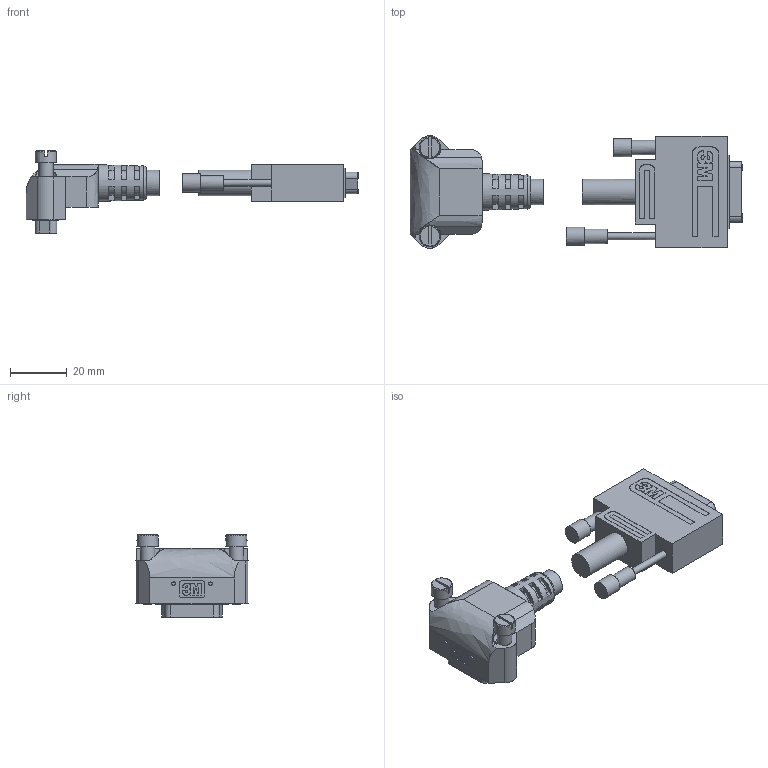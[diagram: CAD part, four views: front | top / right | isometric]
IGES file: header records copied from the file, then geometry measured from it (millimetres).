
Global section: file name: Q:\us254833\2009 Jobs\Pilny_wr10880_SDR_MDR_S\14H26-SZLS-XXX-0LC_iges.igs; native system: NX V5.0; preprocessor: UGS NX IGES V5.0; date: 20091218.130512; units: millimetre
Bounding box: 117.04 x 39.7 x 29 mm (x, y, z)
Surface area: 18379.7 mm2 (no closed solid volume)
Topology: 0 solids, 0 shells, 777 faces, 4824 edges, 4784 vertices
Faces by surface type: bspline 777
